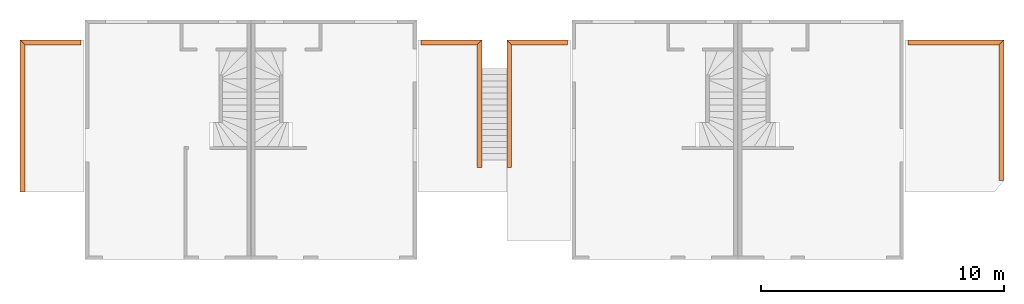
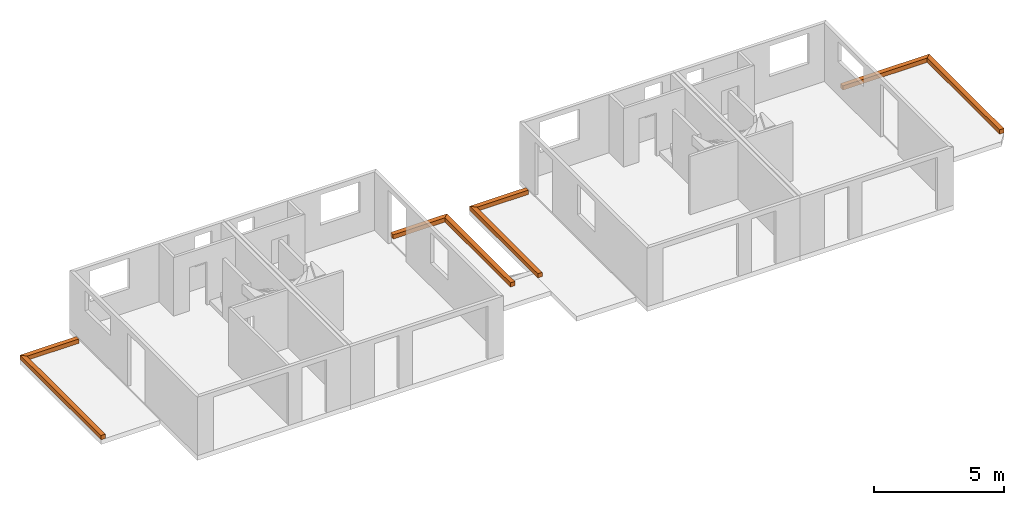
# One storey, part 8 of 8: 8 proxies.
"""IFC2X3 building model written with IfcOpenShell, lengths in metres."""

import ifcopenshell
import ifcopenshell.guid

model = None  # the IFC model being written
_history = None  # IfcOwnerHistory: only IFC2X3 demands one
_inside = {}  # id of a spatial element -> (the spatial element, [elements in it])
_under = {}  # id of a project, library or spatial element -> (it, [spatial elements below it])
_declared = {}  # id of a project -> (the project, [libraries it declares])
_typed = {}  # id of a type object -> (the type object, [elements of that type])
_made_of = {}  # id of a material, layer set ... -> (it, [elements and type objects made of it])


def new_model(schema):
    """Start an empty IFC model of exactly this schema.

    Asked for "IFC4X3", IfcOpenShell would pick the latest addendum, in which some entities
    have other attributes; the version numbers below select the first issue.
    IFC2X3 requires an IfcOwnerHistory on every rooted entity: one is made here for all.
    """
    global model, _history
    if schema == "IFC4X3":
        model = ifcopenshell.file(schema_version=(4, 3, 0, 0))
    else:
        model = ifcopenshell.file(schema=schema)
    _inside.clear()
    _under.clear()
    _declared.clear()
    _typed.clear()
    _made_of.clear()
    _history = None
    if model.schema == "IFC2X3":
        org = make("IfcOrganization", Name="unknown")
        user = make(
            "IfcPersonAndOrganization",
            ThePerson=make("IfcPerson", FamilyName="unknown"),
            TheOrganization=org,
        )
        app = make(
            "IfcApplication",
            ApplicationDeveloper=org,
            Version="unknown",
            ApplicationFullName="unknown",
            ApplicationIdentifier="unknown",
        )
        _history = make(
            "IfcOwnerHistory",
            OwningUser=user,
            OwningApplication=app,
            ChangeAction="ADDED",
            CreationDate=0,
        )
    return model


def make(cls, **values):
    """One entity of the class cls with the attributes given. An attribute that is None is left unset."""
    return model.create_entity(
        cls, **{name: value for name, value in values.items() if value is not None}
    )


def entity(cls, *values):
    """Any entity or typed value of the class cls, its attributes in the order of the schema. None: left unset."""
    e = model.create_entity(cls)
    for i, value in enumerate(values):
        if value is not None:
            e[i] = value
    return e


def rooted(cls, **values):
    """An entity with a GlobalId (a new one), such as an element, a storey or a relation."""
    return make(cls, GlobalId=ifcopenshell.guid.new(), OwnerHistory=_history, **values)


def si_unit(unit_type, name, prefix=None):
    """IfcSIUnit, for example si_unit("LENGTHUNIT", "METRE", prefix="MILLI")."""
    return make("IfcSIUnit", UnitType=unit_type, Prefix=prefix, Name=name)


def converted_unit(unit_type, name, factor, base, dimensions=None, offset=None):
    """IfcConversionBasedUnit, such as the inch: factor (a typed value) times the base unit."""
    return make(
        "IfcConversionBasedUnit"
        if offset is None
        else "IfcConversionBasedUnitWithOffset",
        ConversionOffset=offset,
        Dimensions=None
        if dimensions is None
        else entity("IfcDimensionalExponents", *dimensions),
        UnitType=unit_type,
        Name=name,
        ConversionFactor=make(
            "IfcMeasureWithUnit", ValueComponent=factor, UnitComponent=base
        ),
    )


def money_unit(currency):
    """IfcMonetaryUnit."""
    return make("IfcMonetaryUnit", Currency=currency)


def assignment(units):
    """IfcUnitAssignment: the units of a project."""
    return None if units is None else make("IfcUnitAssignment", Units=units)


def point(xyz):
    """IfcCartesianPoint."""
    return None if xyz is None else make("IfcCartesianPoint", Coordinates=xyz)


def direction(xyz):
    """IfcDirection."""
    return None if xyz is None else make("IfcDirection", DirectionRatios=xyz)


def frame(location, z_axis=None, x_axis=None):
    """IfcAxis2Placement3D, a coordinate frame: its origin and axes. An axis left out is left unset."""
    return make(
        "IfcAxis2Placement3D",
        Location=point(location),
        Axis=direction(z_axis),
        RefDirection=direction(x_axis),
    )


def origin_with_axes():
    """The frame at (0, 0, 0) with the z axis (0, 0, 1) and the x axis (1, 0, 0) written out."""
    return frame((0.0, 0.0, 0.0), z_axis=(0.0, 0.0, 1.0), x_axis=(1.0, 0.0, 0.0))


def place(relative_to, where):
    """IfcLocalPlacement: puts the frame where relative to a parent placement (None: the world)."""
    return make(
        "IfcLocalPlacement", PlacementRelTo=relative_to, RelativePlacement=where
    )


def context(
    kind, dimensions, precision=None, world=None, true_north=None, identifier=None
):
    """IfcGeometricRepresentationContext, for example the 3D "Model" context."""
    return make(
        "IfcGeometricRepresentationContext",
        ContextIdentifier=identifier,
        ContextType=kind,
        CoordinateSpaceDimension=dimensions,
        Precision=precision,
        WorldCoordinateSystem=world,
        TrueNorth=true_north,
    )


def subcontext(parent, identifier, kind, view, scale=None):
    """IfcGeometricRepresentationSubContext, for example "Body" below "Model"."""
    return make(
        "IfcGeometricRepresentationSubContext",
        ContextIdentifier=identifier,
        ContextType=kind,
        ParentContext=parent,
        TargetScale=scale,
        TargetView=view,
    )


def project(units=None, contexts=None):
    """IfcProject with its units and contexts."""
    return rooted(
        "IfcProject",
        Name="project",
        RepresentationContexts=contexts,
        UnitsInContext=assignment(units),
    )


def spatial(cls, under=None, at=None, **own):
    """A site, building, storey or space (cls), placed at a placement, below another one or the project."""
    s = rooted(cls, ObjectPlacement=at, **own)
    if under is not None:
        _under.setdefault(under.id(), (under, []))[1].append(s)
    return s


def polyline(points):
    """IfcPolyline through the points."""
    return make("IfcPolyline", Points=[point(p) for p in points])


def outline(outer, holes=None, kind="AREA"):
    """IfcArbitraryClosedProfileDef: a profile drawn as a closed curve; with holes, ...WithVoids."""
    if holes is None:
        return make("IfcArbitraryClosedProfileDef", ProfileType=kind, OuterCurve=outer)
    return make(
        "IfcArbitraryProfileDefWithVoids",
        ProfileType=kind,
        OuterCurve=outer,
        InnerCurves=holes,
    )


def extrude(swept, where, along, depth):
    """IfcExtrudedAreaSolid: the profile swept, set in the frame where, extruded along a direction by depth."""
    return make(
        "IfcExtrudedAreaSolid",
        SweptArea=swept,
        Position=where,
        ExtrudedDirection=direction(along),
        Depth=depth,
    )


def shape(context_of_items, identifier, shape_type, items):
    """IfcShapeRepresentation: the items that make up one representation, for example the "Body"."""
    return make(
        "IfcShapeRepresentation",
        ContextOfItems=context_of_items,
        RepresentationIdentifier=identifier,
        RepresentationType=shape_type,
        Items=items,
    )


def material(Name=None, Category=None):
    """IfcMaterial."""
    return make("IfcMaterial", Name=Name, Category=Category)


def made_of(thing, what):
    """Note that an element or type object is made of a material, layer set ...; save() writes the relation."""
    if what is not None:
        _made_of.setdefault(what.id(), (what, []))[1].append(thing)
    return thing


def type_object(cls, material=None, **own):
    """A type object (cls), such as IfcWallType, which elements share."""
    return made_of(rooted(cls, **own), material)


def element(
    cls,
    number,
    at=None,
    inside=None,
    cuts=None,
    type_object=None,
    material=None,
    context=None,
    identifier="Body",
    shape_type=None,
    held_by="IfcProductDefinitionShape",
    body=None,
    shapes=None,
    **own,
):
    """One element of the class cls, such as IfcWall. Its Tag is "e" and its number.

    at: its placement. inside: the storey or other place that contains it. cuts: it is an
    opening in that element (IfcRelVoidsElement). A single representation is given by context,
    identifier, shape_type and body (its items); several are given by shapes. held_by: the class
    of the entity that holds the representations. save() writes the other relations.
    """
    e = rooted(cls, Tag="e%d" % number, ObjectPlacement=at, **own)
    if body is not None:
        shapes = [shape(context, identifier, shape_type, body)]
    if shapes is not None:
        e.Representation = make(held_by, Representations=shapes)
    if inside is not None:
        _inside.setdefault(inside.id(), (inside, []))[1].append(e)
    if cuts is not None:
        rooted(
            "IfcRelVoidsElement", RelatingBuildingElement=cuts, RelatedOpeningElement=e
        )
    if type_object is not None:
        _typed.setdefault(type_object.id(), (type_object, []))[1].append(e)
    return made_of(e, material)


def aggregate(whole, parts):
    """IfcRelAggregates: a whole, such as a stair, and the parts it consists of."""
    return rooted("IfcRelAggregates", RelatingObject=whole, RelatedObjects=parts)


def save(model, path):
    """Write the relations noted so far, then the file.

    IfcRelAggregates (storeys below a building ...), IfcRelContainedInSpatialStructure (elements
    in a storey), IfcRelDefinesByType, IfcRelAssociatesMaterial and IfcRelDeclares: one each for
    every whole, place, type object, material and project.
    """
    for whole, parts in _under.values():
        aggregate(whole, parts)
    for where, things in _inside.values():
        rooted(
            "IfcRelContainedInSpatialStructure",
            RelatedElements=things,
            RelatingStructure=where,
        )
    for kind, things in _typed.values():
        rooted("IfcRelDefinesByType", RelatedObjects=things, RelatingType=kind)
    for what, things in _made_of.values():
        rooted("IfcRelAssociatesMaterial", RelatedObjects=things, RelatingMaterial=what)
    for by, libraries in _declared.values():
        rooted("IfcRelDeclares", RelatingContext=by, RelatedDefinitions=libraries)
    model.write(path)


model = new_model("IFC2X3")

# Units and contexts
model_context = context("Model", 3, precision=1e-05, world=origin_with_axes(), true_north=direction((0.0, 1.0)))
body_context = subcontext(model_context, "Body", "Model", "MODEL_VIEW")
ifc_project = project(units=[si_unit("LENGTHUNIT", "METRE"), si_unit("AREAUNIT", "SQUARE_METRE"), si_unit("VOLUMEUNIT", "CUBIC_METRE"), converted_unit("PLANEANGLEUNIT", "DEGREE", entity("IfcPlaneAngleMeasure", 0.0174532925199), si_unit("PLANEANGLEUNIT", "RADIAN"), dimensions=[0, 0, 0, 0, 0, 0, 0]), si_unit("SOLIDANGLEUNIT", "STERADIAN"), money_unit("EUR"), si_unit("TIMEUNIT", "SECOND"), si_unit("MASSUNIT", "GRAM"), si_unit("THERMODYNAMICTEMPERATUREUNIT", "DEGREE_CELSIUS"), si_unit("LUMINOUSINTENSITYUNIT", "LUMEN")], contexts=[model_context])

# Site, building, storey
site_placement = place(None, origin_with_axes())
site = spatial("IfcSite", under=ifc_project, at=site_placement, Name="Gelände", CompositionType="ELEMENT")
building_placement = place(site_placement, origin_with_axes())
building = spatial("IfcBuilding", under=site, at=building_placement, Name="Gebäude", CompositionType="ELEMENT")
storey_placement = place(building_placement, origin_with_axes())
storey = spatial("IfcBuildingStorey", under=building, at=storey_placement, Name="Erdgeschoss", CompositionType="ELEMENT", Elevation=0.0)

# Proxies
ifc_material = material(Name="Beton, Stahlbeton")
building_element_proxy_type = type_object("IfcBuildingElementProxyType", Name="Beton, Stahlbeton 200", PredefinedType="NOTDEFINED")
proxy_1_placement = place(storey_placement, frame((2.85405580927, -4.81220583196, 0.0), z_axis=(0.0, 0.0, 1.0), x_axis=(0.0, 1.0, 0.0)))
element("IfcBuildingElementProxy", 1, at=proxy_1_placement, inside=storey, type_object=building_element_proxy_type, material=ifc_material, Name="Brüstung A", context=body_context, shape_type="SweptSolid", body=[
    extrude(outline(polyline([(0.0, -0.2), (6.04999988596, -0.2), (6.24999988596, 0.0), (0.0, 0.0), (0.0, -0.2)])), origin_with_axes(), (0.0, 0.0, 1.0), 0.2),
])
proxy_2_placement = place(storey_placement, frame((2.85405580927, 1.437794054, 0.0), z_axis=(0.0, 0.0, 1.0), x_axis=(1.0, 0.0, 0.0)))
element("IfcBuildingElementProxy", 2, at=proxy_2_placement, inside=storey, type_object=building_element_proxy_type, material=ifc_material, Name="Brüstung A", context=body_context, shape_type="SweptSolid", body=[
    extrude(outline(polyline([(0.2, -0.2), (2.5, -0.2), (2.5, 0.0), (0.0, 0.0), (0.2, -0.2)])), origin_with_axes(), (0.0, 0.0, 1.0), 0.2),
])
proxy_3_placement = place(storey_placement, frame((21.8539792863, -3.81220583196, 0.0), z_axis=(0.0, 0.0, 1.0), x_axis=(0.0, 1.0, 0.0)))
element("IfcBuildingElementProxy", 3, at=proxy_3_placement, inside=storey, type_object=building_element_proxy_type, material=ifc_material, Name="Brüstung B", context=body_context, shape_type="SweptSolid", body=[
    extrude(outline(polyline([(0.0, 0.0), (5.24999988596, 0.0), (5.04999988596, 0.2), (0.0, 0.2), (0.0, 0.0)])), origin_with_axes(), (0.0, 0.0, 1.0), 0.2),
])
proxy_4_placement = place(storey_placement, frame((21.8539792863, 1.437794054, 0.0), z_axis=(0.0, 0.0, 1.0), x_axis=(-1.0, 0.0, 0.0)))
element("IfcBuildingElementProxy", 4, at=proxy_4_placement, inside=storey, type_object=building_element_proxy_type, material=ifc_material, Name="Brüstung B", context=body_context, shape_type="SweptSolid", body=[
    extrude(outline(polyline([(0.0, 0.0), (2.5, 0.0), (2.5, 0.2), (0.2, 0.2), (0.0, 0.0)])), origin_with_axes(), (0.0, 0.0, 1.0), 0.2),
])
proxy_5_placement = place(storey_placement, frame((43.3239027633, -4.3370392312, 0.0), z_axis=(0.0, 0.0, 1.0), x_axis=(0.0, 1.0, 0.0)))
element("IfcBuildingElementProxy", 5, at=proxy_5_placement, inside=storey, type_object=building_element_proxy_type, material=ifc_material, Name="Brüstung D", context=body_context, shape_type="SweptSolid", body=[
    extrude(outline(polyline([(0.0, 0.0), (5.77483330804, 0.0), (5.57483330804, 0.2), (0.0, 0.2), (0.0, 0.0)])), origin_with_axes(), (0.0, 0.0, 1.0), 0.2),
])
proxy_6_placement = place(storey_placement, frame((43.3239027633, 1.43779407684, 0.0), z_axis=(0.0, 0.0, 1.0), x_axis=(-1.0, 0.0, 0.0)))
element("IfcBuildingElementProxy", 6, at=proxy_6_placement, inside=storey, type_object=building_element_proxy_type, material=ifc_material, Name="Brüstung D", context=body_context, shape_type="SweptSolid", body=[
    extrude(outline(polyline([(0.0, 0.0), (3.94996173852, 0.0), (3.94996173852, 0.2), (0.2, 0.2), (0.0, 0.0)])), origin_with_axes(), (0.0, 0.0, 1.0), 0.2),
])
proxy_7_placement = place(storey_placement, frame((22.8739792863, -3.81220583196, 0.0), z_axis=(0.0, 0.0, 1.0), x_axis=(0.0, 1.0, 0.0)))
element("IfcBuildingElementProxy", 7, at=proxy_7_placement, inside=storey, type_object=building_element_proxy_type, material=ifc_material, Name="Brüstung C", context=body_context, shape_type="SweptSolid", body=[
    extrude(outline(polyline([(0.0, -0.2), (5.04999988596, -0.2), (5.24999988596, 0.0), (0.0, 0.0), (0.0, -0.2)])), origin_with_axes(), (0.0, 0.0, 1.0), 0.2),
])
proxy_8_placement = place(storey_placement, frame((22.8739792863, 1.437794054, 0.0), z_axis=(0.0, 0.0, 1.0), x_axis=(1.0, 0.0, 0.0)))
element("IfcBuildingElementProxy", 8, at=proxy_8_placement, inside=storey, type_object=building_element_proxy_type, material=ifc_material, Name="Brüstung C", context=body_context, shape_type="SweptSolid", body=[
    extrude(outline(polyline([(0.2, -0.2), (2.5, -0.2), (2.5, 0.0), (0.0, 0.0), (0.2, -0.2)])), origin_with_axes(), (0.0, 0.0, 1.0), 0.2),
])

save(model, "model.ifc")
